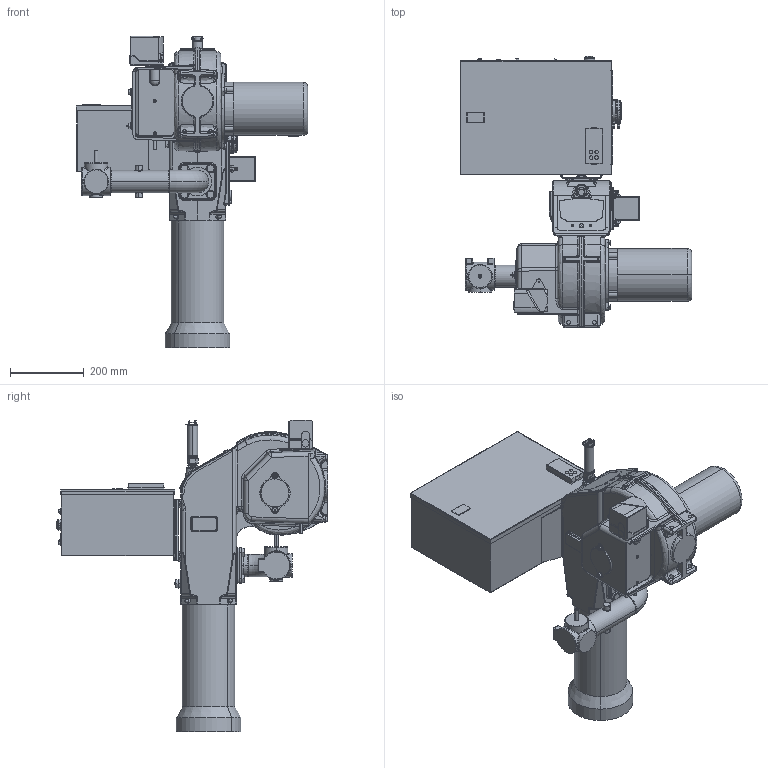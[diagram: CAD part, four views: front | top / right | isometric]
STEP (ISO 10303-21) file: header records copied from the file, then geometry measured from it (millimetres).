
FILE_DESCRIPTION((''),'2;1');
FILE_NAME('CG25_GEN3_SW0001','2010-12-30T',('bsmith'),('R.W. Beckett Corp.'),'PRO/ENGINEER BY PARAMETRIC TECHNOLOGY CORPORATION, 2010180','PRO/ENGINEER BY PARAMETRIC TECHNOLOGY CORPORATION, 2010180','');
FILE_SCHEMA(('CONFIG_CONTROL_DESIGN'));
Products named in the file (1): CG25_GEN3_SW0001
Bounding box: 627.04 x 735.65 x 844.55 mm (x, y, z)
Surface area: 2080777 mm2 (no closed solid volume)
Topology: 0 solids, 266 shells, 2091 faces, 6180 edges, 4232 vertices
Faces by surface type: cylinder 787, plane 701, bspline 320, torus 142, cone 83, sphere 52, extrusion 6
Entity records: 92113 total; most frequent: CARTESIAN_POINT 40364, DIRECTION 10351, ORIENTED_EDGE 10083, EDGE_CURVE 6162, VERTEX_POINT 4232, AXIS2_PLACEMENT_3D 3795, VECTOR 2761, LINE 2755
